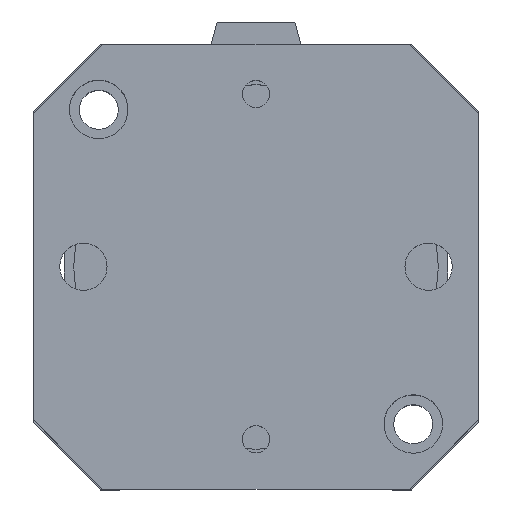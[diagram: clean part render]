
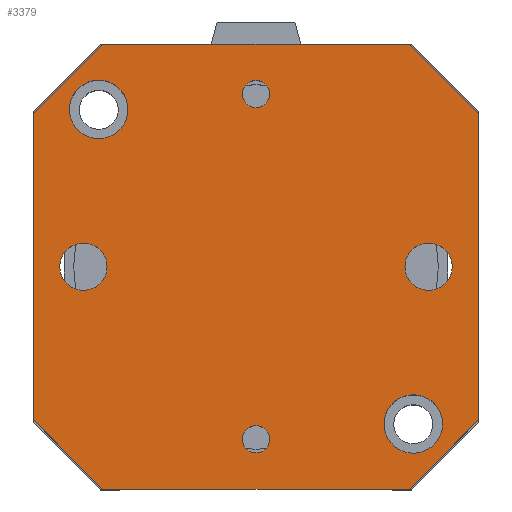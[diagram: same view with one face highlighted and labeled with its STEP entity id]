
A CAD part, top view. The second image highlights one B-rep face of the part: STEP entity #3379.
In plain terms, the highlighted planar face has unit normal (0, 0, 1).
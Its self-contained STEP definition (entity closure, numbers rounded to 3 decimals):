
#265=LINE('',#5630,#519);
#267=LINE('',#5634,#521);
#269=LINE('',#5638,#523);
#271=LINE('',#5642,#525);
#273=LINE('',#5646,#527);
#275=LINE('',#5650,#529);
#277=LINE('',#5654,#531);
#279=LINE('',#5657,#533);
#519=VECTOR('',#4681,55.);
#521=VECTOR('',#4685,17.678);
#523=VECTOR('',#4689,55.);
#525=VECTOR('',#4693,17.678);
#527=VECTOR('',#4697,55.);
#529=VECTOR('',#4701,17.678);
#531=VECTOR('',#4705,55.);
#533=VECTOR('',#4709,17.678);
#627=PLANE('',#3743);
#716=FACE_BOUND('',#1138,.T.);
#717=FACE_BOUND('',#1139,.T.);
#718=FACE_BOUND('',#1140,.T.);
#719=FACE_BOUND('',#1141,.T.);
#720=FACE_BOUND('',#1142,.T.);
#721=FACE_BOUND('',#1143,.T.);
#722=FACE_BOUND('',#1144,.T.);
#1138=EDGE_LOOP('',(#2914));
#1139=EDGE_LOOP('',(#2915));
#1140=EDGE_LOOP('',(#2916));
#1141=EDGE_LOOP('',(#2917));
#1142=EDGE_LOOP('',(#2918));
#1143=EDGE_LOOP('',(#2919));
#1144=EDGE_LOOP('',(#2920,#2921,#2922,#2923,#2924,#2925,#2926,#2927));
#1309=CIRCLE('',#3699,2.459);
#1311=CIRCLE('',#3702,2.459);
#1316=CIRCLE('',#3710,4.25);
#1320=CIRCLE('',#3717,4.25);
#1329=CIRCLE('',#3732,5.25);
#1330=CIRCLE('',#3734,5.25);
#1601=VERTEX_POINT('',#5548);
#1603=VERTEX_POINT('',#5553);
#1608=VERTEX_POINT('',#5566);
#1612=VERTEX_POINT('',#5577);
#1631=VERTEX_POINT('',#5621);
#1632=VERTEX_POINT('',#5624);
#1633=VERTEX_POINT('',#5627);
#1634=VERTEX_POINT('',#5629);
#1635=VERTEX_POINT('',#5633);
#1636=VERTEX_POINT('',#5637);
#1637=VERTEX_POINT('',#5641);
#1638=VERTEX_POINT('',#5645);
#1639=VERTEX_POINT('',#5649);
#1640=VERTEX_POINT('',#5653);
#2025=EDGE_CURVE('',#1601,#1601,#1309,.T.);
#2027=EDGE_CURVE('',#1603,#1603,#1311,.T.);
#2032=EDGE_CURVE('',#1608,#1608,#1316,.T.);
#2036=EDGE_CURVE('',#1612,#1612,#1320,.T.);
#2055=EDGE_CURVE('',#1631,#1631,#1329,.T.);
#2056=EDGE_CURVE('',#1632,#1632,#1330,.T.);
#2058=EDGE_CURVE('',#1634,#1633,#265,.T.);
#2060=EDGE_CURVE('',#1635,#1634,#267,.T.);
#2062=EDGE_CURVE('',#1636,#1635,#269,.T.);
#2064=EDGE_CURVE('',#1637,#1636,#271,.T.);
#2066=EDGE_CURVE('',#1638,#1637,#273,.T.);
#2068=EDGE_CURVE('',#1639,#1638,#275,.T.);
#2070=EDGE_CURVE('',#1640,#1639,#277,.T.);
#2072=EDGE_CURVE('',#1633,#1640,#279,.T.);
#2914=ORIENTED_EDGE('',*,*,#2025,.T.);
#2915=ORIENTED_EDGE('',*,*,#2027,.T.);
#2916=ORIENTED_EDGE('',*,*,#2032,.T.);
#2917=ORIENTED_EDGE('',*,*,#2036,.T.);
#2918=ORIENTED_EDGE('',*,*,#2055,.T.);
#2919=ORIENTED_EDGE('',*,*,#2056,.T.);
#2920=ORIENTED_EDGE('',*,*,#2072,.T.);
#2921=ORIENTED_EDGE('',*,*,#2070,.T.);
#2922=ORIENTED_EDGE('',*,*,#2068,.T.);
#2923=ORIENTED_EDGE('',*,*,#2066,.T.);
#2924=ORIENTED_EDGE('',*,*,#2064,.T.);
#2925=ORIENTED_EDGE('',*,*,#2062,.T.);
#2926=ORIENTED_EDGE('',*,*,#2060,.T.);
#2927=ORIENTED_EDGE('',*,*,#2058,.T.);
#3379=ADVANCED_FACE('',(#716,#717,#718,#719,#720,#721,#722),#627,.T.);
#3699=AXIS2_PLACEMENT_3D('',#5549,#4596,#4597);
#3702=AXIS2_PLACEMENT_3D('',#5554,#4602,#4603);
#3710=AXIS2_PLACEMENT_3D('',#5567,#4618,#4619);
#3717=AXIS2_PLACEMENT_3D('',#5578,#4632,#4633);
#3732=AXIS2_PLACEMENT_3D('',#5622,#4672,#4673);
#3734=AXIS2_PLACEMENT_3D('',#5625,#4676,#4677);
#3743=AXIS2_PLACEMENT_3D('',#5658,#4710,#4711);
#4596=DIRECTION('center_axis',(0.,0.,-1.));
#4597=DIRECTION('ref_axis',(1.,0.,0.));
#4602=DIRECTION('center_axis',(0.,0.,-1.));
#4603=DIRECTION('ref_axis',(1.,0.,0.));
#4618=DIRECTION('center_axis',(0.,0.,-1.));
#4619=DIRECTION('ref_axis',(1.,0.,0.));
#4632=DIRECTION('center_axis',(0.,0.,-1.));
#4633=DIRECTION('ref_axis',(1.,0.,0.));
#4672=DIRECTION('center_axis',(0.,0.,-1.));
#4673=DIRECTION('ref_axis',(-1.,0.,0.));
#4676=DIRECTION('center_axis',(0.,0.,-1.));
#4677=DIRECTION('ref_axis',(-1.,0.,0.));
#4681=DIRECTION('',(0.,1.,0.));
#4685=DIRECTION('',(0.707,0.707,0.));
#4689=DIRECTION('',(1.,0.,0.));
#4693=DIRECTION('',(0.707,-0.707,0.));
#4697=DIRECTION('',(0.,-1.,0.));
#4701=DIRECTION('',(-0.707,-0.707,0.));
#4705=DIRECTION('',(-1.,0.,0.));
#4709=DIRECTION('',(-0.707,0.707,0.));
#4710=DIRECTION('center_axis',(0.,0.,1.));
#4711=DIRECTION('ref_axis',(1.,0.,0.));
#5548=CARTESIAN_POINT('',(-33.459,0.,37.25));
#5549=CARTESIAN_POINT('Origin',(-31.,0.,37.25));
#5553=CARTESIAN_POINT('',(28.542,0.,37.25));
#5554=CARTESIAN_POINT('Origin',(31.,0.,37.25));
#5566=CARTESIAN_POINT('',(-4.25,31.,37.25));
#5567=CARTESIAN_POINT('Origin',(0.,31.,37.25));
#5577=CARTESIAN_POINT('',(-4.25,-31.,37.25));
#5578=CARTESIAN_POINT('Origin',(0.,-31.,37.25));
#5621=CARTESIAN_POINT('',(-23.,-28.25,37.25));
#5622=CARTESIAN_POINT('Origin',(-28.25,-28.25,37.25));
#5624=CARTESIAN_POINT('',(33.5,28.25,37.25));
#5625=CARTESIAN_POINT('Origin',(28.25,28.25,37.25));
#5627=CARTESIAN_POINT('',(40.,27.5,37.25));
#5629=CARTESIAN_POINT('',(40.,-27.5,37.25));
#5630=CARTESIAN_POINT('',(40.,27.5,37.25));
#5633=CARTESIAN_POINT('',(27.5,-40.,37.25));
#5634=CARTESIAN_POINT('',(40.,-27.5,37.25));
#5637=CARTESIAN_POINT('',(-27.5,-40.,37.25));
#5638=CARTESIAN_POINT('',(27.5,-40.,37.25));
#5641=CARTESIAN_POINT('',(-40.,-27.5,37.25));
#5642=CARTESIAN_POINT('',(-27.5,-40.,37.25));
#5645=CARTESIAN_POINT('',(-40.,27.5,37.25));
#5646=CARTESIAN_POINT('',(-40.,-27.5,37.25));
#5649=CARTESIAN_POINT('',(-27.5,40.,37.25));
#5650=CARTESIAN_POINT('',(-40.,27.5,37.25));
#5653=CARTESIAN_POINT('',(27.5,40.,37.25));
#5654=CARTESIAN_POINT('',(-27.5,40.,37.25));
#5657=CARTESIAN_POINT('',(27.5,40.,37.25));
#5658=CARTESIAN_POINT('Origin',(0.,0.,
37.25));
